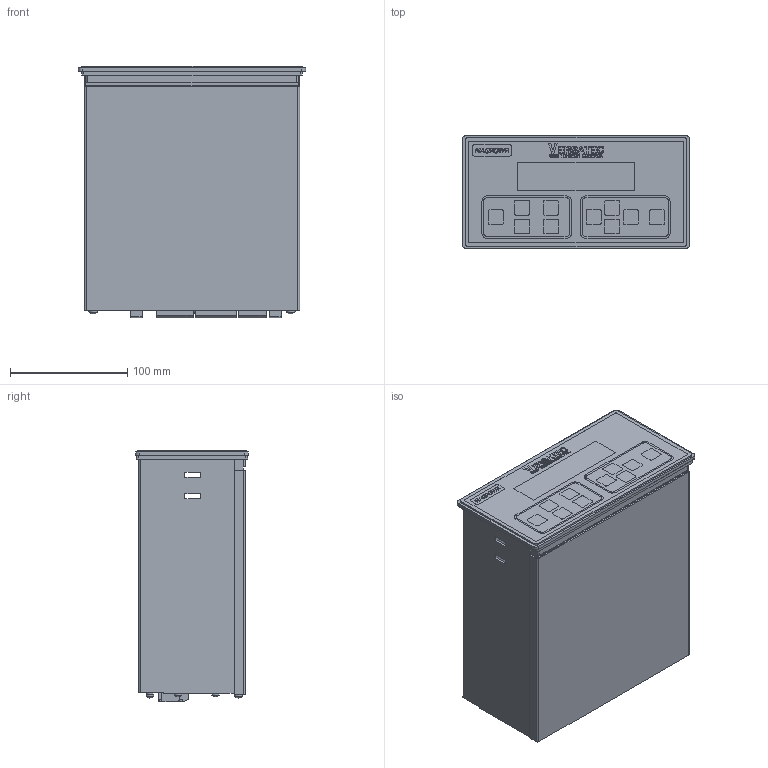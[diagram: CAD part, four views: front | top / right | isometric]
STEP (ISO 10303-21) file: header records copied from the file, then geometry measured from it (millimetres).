
FILE_DESCRIPTION((''),'2;1');
FILE_NAME('J:\WIP\Magpowr WEB\3D (Models)\Tension Controls\VERSATEC\VTC\VTC.stp','2012-10-04T14:32:29',(''),(''),'Autodesk Inventor 2012','Autodesk Inventor 2012','');
FILE_SCHEMA(('AUTOMOTIVE_DESIGN { 1 0 10303 214 1 1 1 1 }'));
Length unit declared in the file: inch
Products named in the file (1): VTC
Bounding box: 193.55 x 96.27 x 214.35 mm (x, y, z)
Volume: 306552.4 mm3; surface area: 296626.5 mm2
Topology: 1 solids, 1 shells, 953 faces, 2471 edges, 1647 vertices
Faces by surface type: plane 683, bspline 157, cylinder 101, sphere 12
Full cylindrical faces by diameter (mm): 5.334 x6, 6.35 x10, 6.731 x2
Entity records: 30190 total; most frequent: CARTESIAN_POINT 7515, ORIENTED_EDGE 4906, DIRECTION 3936, EDGE_CURVE 2453, VECTOR 1938, LINE 1938, VERTEX_POINT 1647, EDGE_LOOP 1104
